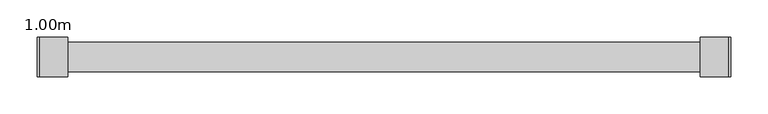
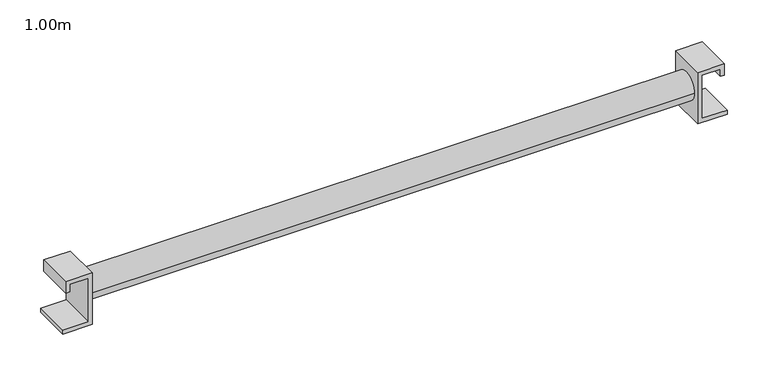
"""IFC4 building model written with IfcOpenShell, lengths in millimetres: proxy geometry, MILLS_TOEC_MOISE_S : 1.00m."""

from ifc_helpers import new_model, si_unit, point, frame, origin, origin_2d, place, context, project, spatial, polyline, circle_curve, trimmed, segment, composite_curve, outline, extrude, source, transform, mapped, element, save


def proxy_1_00m_e1a59707(model_context):
    return source(origin(), model_context, "Body", "SweptSolid", [
        extrude(outline(polyline([(-41.6, -1433.5299635), (35.0, -1433.5299635), (35.0, -1471.5299635), (18.0, -1471.5299635), (18.0, -1465.5299635), (29.0, -1465.5299635), (29.0, -1439.5299635), (-35.6, -1439.5299635), (-35.6, -1475.2099635), (-41.6, -1475.2099635), (-41.6, -1433.5299635)])), frame((0.0, -26.9, 0.0), z_axis=(0.0, 1.0, 0.0), x_axis=(0.0, 0.0, 1.0)), (0.0, 0.0, 1.0), 53.8),
        extrude(outline(polyline([(-41.6, -579.5299635), (-41.6, -537.8499635), (-35.6, -537.8499635), (-35.6, -573.5299635), (29.0, -573.5299635), (29.0, -547.5299635), (18.0, -547.5299635), (18.0, -541.5299635), (35.0, -541.5299635), (35.0, -579.5299635), (-41.6, -579.5299635)])), frame((0.0, -26.9, 0.0), z_axis=(0.0, 1.0, 0.0), x_axis=(0.0, 0.0, 1.0)), (0.0, 0.0, 1.0), 53.8),
        extrude(outline(composite_curve([segment(trimmed(circle_curve(origin_2d(), 20.0), [point((-20.0, 0.0))], [point((20.0, 0.0))], False, "CARTESIAN"), True, "CONTINUOUS"), segment(trimmed(circle_curve(origin_2d(), 20.0), [point((20.0, 0.0))], [point((-20.0, 0.0))], False, "CARTESIAN"), True, "CONTINUOUS")], self_intersect=False)), frame((-1433.5299635, 0.0, 0.0), z_axis=(1.0, 0.0, 0.0), x_axis=(0.0, 1.0, 0.0)), (0.0, 0.0, 1.0), 854.0),
    ])


if __name__ == "__main__":
    model = new_model("IFC4")
    model_context = context("Model", 3, world=origin())
    ifc_project = project(units=[si_unit("LENGTHUNIT", "METRE", prefix="MILLI")], contexts=[model_context])
    site = spatial("IfcSite", under=ifc_project)
    building = spatial("IfcBuilding", under=site)
    placement = place(None, origin())
    proxy_1_00m_shape = proxy_1_00m_e1a59707(model_context)
    element("IfcBuildingElementProxy", 1, Name="MILLS_TOEC_MOISE_S : 1.00m", ObjectType="MILLS_TOEC_MOISE_S : 1.00m", at=placement, inside=building, context=model_context, shape_type="MappedRepresentation", body=[
        mapped(proxy_1_00m_shape, transform((0.0, 0.0, 0.0), x_axis=(1.0, 0.0, 0.0), y_axis=(0.0, 1.0, 0.0), z_axis=(0.0, 0.0, 1.0))),
    ])
    save(model, "model.ifc")
